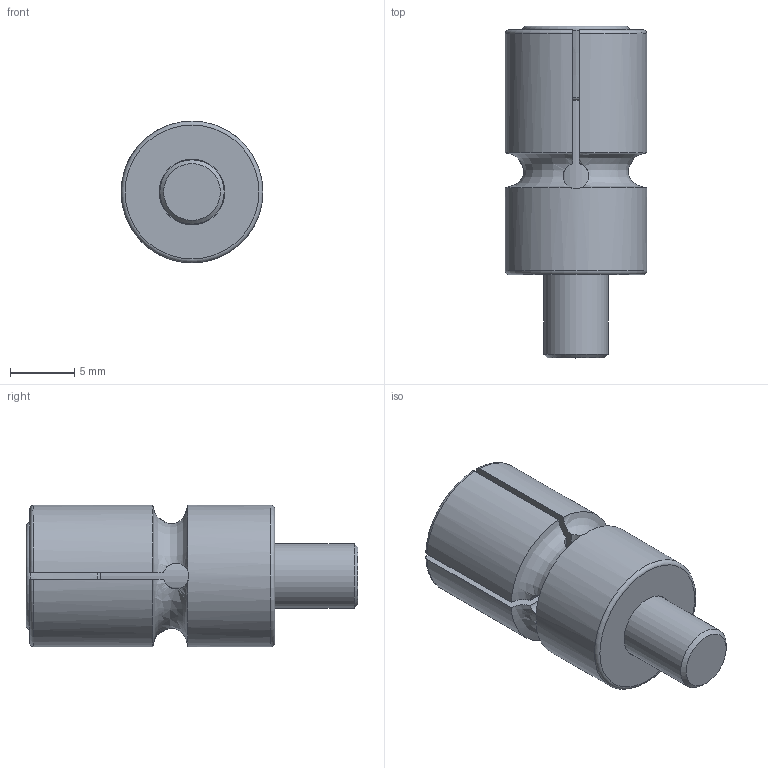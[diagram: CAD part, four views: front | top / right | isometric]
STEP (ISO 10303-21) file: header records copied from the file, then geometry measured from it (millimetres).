
FILE_DESCRIPTION(/* description */ (''),/* implementation_level */ '2;1');
FILE_NAME(/* name */ '11MM扩张销_stp.stp',/* time_stamp */ '2023-11-23T22:10:45+08:00',/* author */ (''),/* organization */ (''),/* preprocessor_version */ 'ST-DEVELOPER v16',/* originating_system */ 'SIEMENS PLM Software NX 10.0',/* authorisation */ '');
FILE_SCHEMA (('CONFIG_CONTROL_DESIGN'));
Length unit declared in the file: millimetre
Products named in the file (1): 10MM扩张销_stp
Bounding box: 11 x 25.77 x 11 mm (x, y, z)
Volume: 1707.5 mm3; surface area: 1885.7 mm2
Topology: 2 solids, 2 shells, 57 faces, 148 edges, 96 vertices
Faces by surface type: plane 23, cylinder 17, torus 7, cone 6, bspline 4
Full cylindrical faces by diameter (mm): 5 x1, 5.1 x1, 11 x1
Entity records: 3396 total; most frequent: CARTESIAN_POINT 2054, ORIENTED_EDGE 272, DIRECTION 228, EDGE_CURVE 136, VERTEX_POINT 92, AXIS2_PLACEMENT_3D 86, EDGE_LOOP 68, ADVANCED_FACE 57
